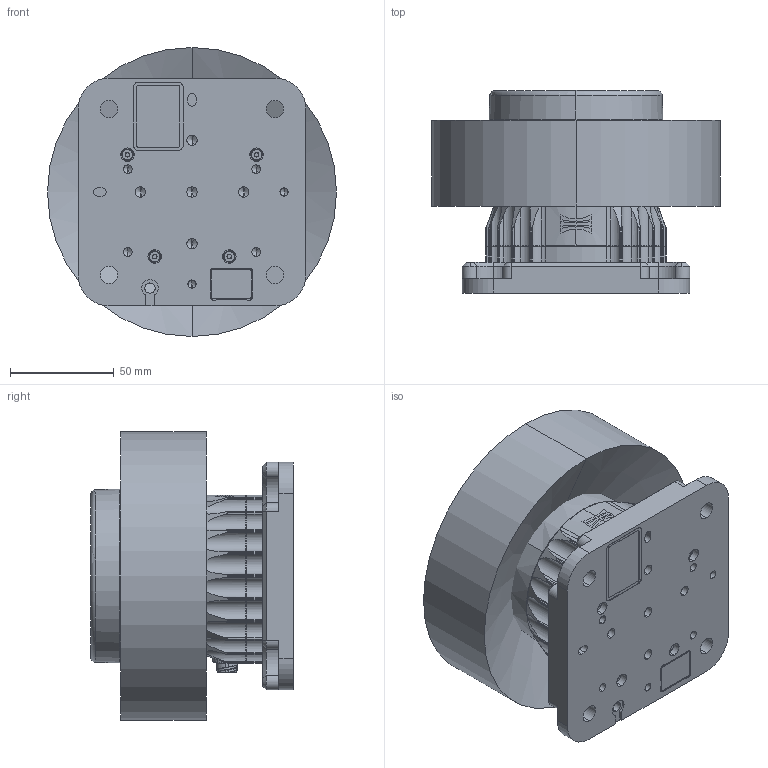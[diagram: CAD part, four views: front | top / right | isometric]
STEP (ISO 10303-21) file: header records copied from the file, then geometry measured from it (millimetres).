
FILE_DESCRIPTION (( 'STEP AP214' ), '1' );
FILE_NAME ('700-108702-Rev 8.0 OS Exterior Spec-OS1 BH_04-30-2026A.STEP', '2026-04-30T19:21:30', ( '' ), ( '' ), 'SwSTEP 2.0', 'SolidWorks 2022', '' );
FILE_SCHEMA (( 'AUTOMOTIVE_DESIGN' ));
Length unit declared in the file: millimetre
Products named in the file (1): 700-108702-Rev 8.0 OS Exterior Spec-OS1 BH_04-30-2026A
Bounding box: 139.52 x 97.84 x 139.52 mm (x, y, z)
Volume: 847468.9 mm3; surface area: 140693.3 mm2
Topology: 15 solids, 15 shells, 1883 faces, 5188 edges, 3250 vertices
Faces by surface type: cylinder 984, cone 342, plane 270, bspline 267, torus 20
Entity records: 117564 total; most frequent: CARTESIAN_POINT 54094, ORIENTED_EDGE 10184, DIRECTION 7710, EDGE_CURVE 5092, VERTEX_POINT 3250, AXIS2_PLACEMENT_3D 3050, EDGE_LOOP 1990, UNCERTAINTY_MEASURE_WITH_UNIT 1900
